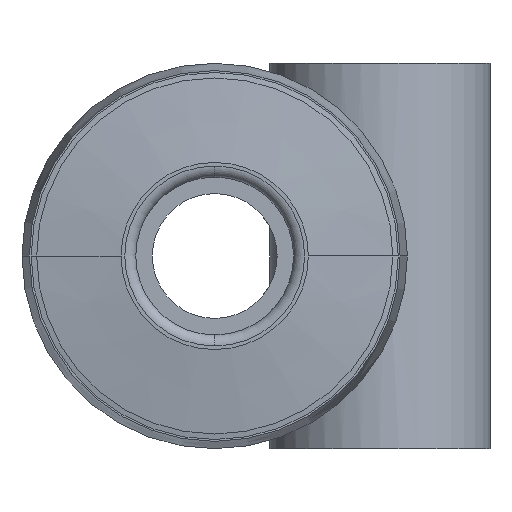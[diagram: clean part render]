
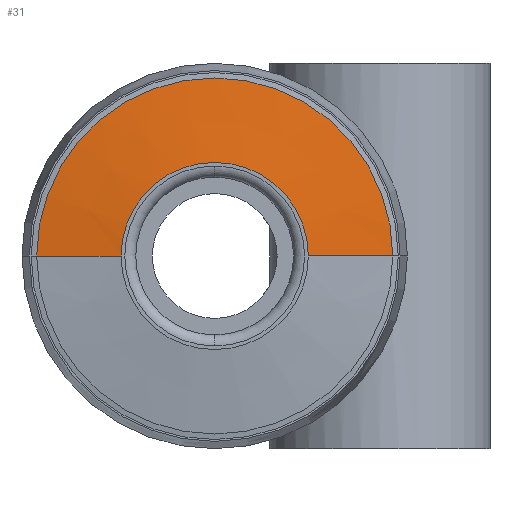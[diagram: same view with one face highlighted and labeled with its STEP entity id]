
A CAD part, front view. The second image highlights one B-rep face of the part: STEP entity #31.
In plain terms, the highlighted conical face has half-angle 82.569 degrees and reference radius 3.7 mm.
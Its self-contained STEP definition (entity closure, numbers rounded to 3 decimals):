
#31 = ADVANCED_FACE ( 'NONE', ( #1774 ), #734, .T. ) ;
#58 = EDGE_LOOP ( 'NONE', ( #867, #634, #1445, #540 ) ) ;
#68 = DIRECTION ( 'NONE',  ( 0., 1., 0. ) ) ;
#76 = DIRECTION ( 'NONE',  ( -0.992, 0.129, 0. ) ) ;
#82 = VERTEX_POINT ( 'NONE', #671 ) ;
#202 = AXIS2_PLACEMENT_3D ( 'NONE', #1728, #903, #1069 ) ;
#221 = EDGE_CURVE ( 'NONE', #231, #82, #1846, .T. ) ;
#231 = VERTEX_POINT ( 'NONE', #1378 ) ;
#243 = CARTESIAN_POINT ( 'NONE',  ( -3.7, -16.8, 0. ) ) ;
#273 = EDGE_CURVE ( 'NONE', #82, #1725, #637, .T. ) ;
#280 = CARTESIAN_POINT ( 'NONE',  ( 2.55, -16.95, 0. ) ) ;
#325 = DIRECTION ( 'NONE',  ( 0., 1., 0. ) ) ;
#400 = AXIS2_PLACEMENT_3D ( 'NONE', #1290, #325, #1630 ) ;
#540 = ORIENTED_EDGE ( 'NONE', *, *, #221, .F. ) ;
#634 = ORIENTED_EDGE ( 'NONE', *, *, #771, .T. ) ;
#637 = CIRCLE ( 'NONE', #202, 4.85 ) ;
#671 = CARTESIAN_POINT ( 'NONE',  ( -4.85, -16.65, 0. ) ) ;
#734 = CONICAL_SURFACE ( 'NONE', #400, 3.7, 1.441 ) ;
#771 = EDGE_CURVE ( 'NONE', #1124, #1725, #1455, .T. ) ;
#772 = VECTOR ( 'NONE', #76, 1000. ) ;
#862 = CARTESIAN_POINT ( 'NONE',  ( 0., -16.95, 0. ) ) ;
#867 = ORIENTED_EDGE ( 'NONE', *, *, #1510, .T. ) ;
#903 = DIRECTION ( 'NONE',  ( 0., 1., 0. ) ) ;
#936 = CARTESIAN_POINT ( 'NONE',  ( 4.85, -16.65, 0. ) ) ;
#1004 = CARTESIAN_POINT ( 'NONE',  ( 3.7, -16.8, 0. ) ) ;
#1069 = DIRECTION ( 'NONE',  ( -1., 0., 0. ) ) ;
#1124 = VERTEX_POINT ( 'NONE', #280 ) ;
#1290 = CARTESIAN_POINT ( 'NONE',  ( 0., -16.8, 0. ) ) ;
#1378 = CARTESIAN_POINT ( 'NONE',  ( -2.55, -16.95, 0. ) ) ;
#1391 = CIRCLE ( 'NONE', #1458, 2.55 ) ;
#1445 = ORIENTED_EDGE ( 'NONE', *, *, #273, .F. ) ;
#1455 = LINE ( 'NONE', #1004, #1949 ) ;
#1458 = AXIS2_PLACEMENT_3D ( 'NONE', #862, #68, #1671 ) ;
#1510 = EDGE_CURVE ( 'NONE', #231, #1124, #1391, .T. ) ;
#1630 = DIRECTION ( 'NONE',  ( -1., 0., 0. ) ) ;
#1643 = DIRECTION ( 'NONE',  ( 0.992, 0.129, 0. ) ) ;
#1671 = DIRECTION ( 'NONE',  ( -1., 0., 0. ) ) ;
#1725 = VERTEX_POINT ( 'NONE', #936 ) ;
#1728 = CARTESIAN_POINT ( 'NONE',  ( 0., -16.65, 0. ) ) ;
#1774 = FACE_OUTER_BOUND ( 'NONE', #58, .T. ) ;
#1846 = LINE ( 'NONE', #243, #772 ) ;
#1949 = VECTOR ( 'NONE', #1643, 1000. ) ;
